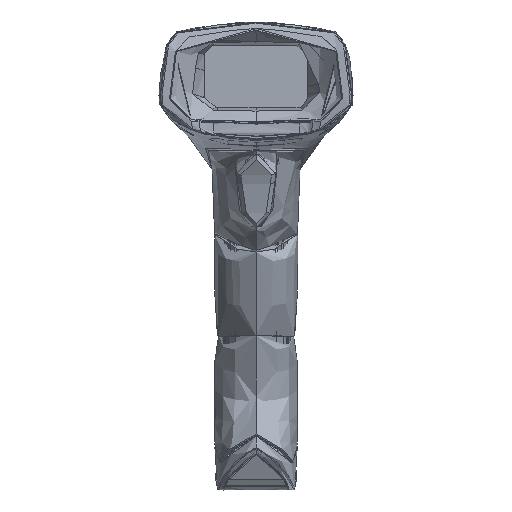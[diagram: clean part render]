
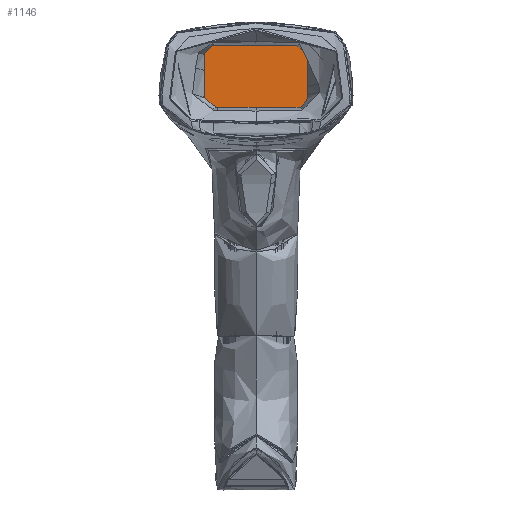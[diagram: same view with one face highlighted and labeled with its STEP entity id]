
A CAD part, front view. The second image highlights one B-rep face of the part: STEP entity #1146.
In plain terms, the highlighted planar face has unit normal (0, -1, 0).
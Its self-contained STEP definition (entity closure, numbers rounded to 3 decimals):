
#1146=ADVANCED_FACE('',(#5742),#78054,.T.);
#5742=FACE_OUTER_BOUND('',#10401,.T.);
#10401=EDGE_LOOP('',(#20009,#20010,#20011,#20012,#20013,#20014,#20015,#20016));
#20009=ORIENTED_EDGE('',*,*,#43531,.F.);
#20010=ORIENTED_EDGE('',*,*,#43552,.T.);
#20011=ORIENTED_EDGE('',*,*,#43550,.F.);
#20012=ORIENTED_EDGE('',*,*,#43547,.F.);
#20013=ORIENTED_EDGE('',*,*,#43544,.F.);
#20014=ORIENTED_EDGE('',*,*,#43541,.F.);
#20015=ORIENTED_EDGE('',*,*,#43538,.F.);
#20016=ORIENTED_EDGE('',*,*,#43535,.F.);
#43531=EDGE_CURVE('',#69405,#69404,#54065,.T.);
#43535=EDGE_CURVE('',#69404,#69406,#57469,.T.);
#43538=EDGE_CURVE('',#69406,#69407,#54067,.T.);
#43541=EDGE_CURVE('',#69407,#69408,#57473,.T.);
#43544=EDGE_CURVE('',#69408,#69409,#54069,.T.);
#43547=EDGE_CURVE('',#69409,#69410,#57477,.T.);
#43550=EDGE_CURVE('',#69410,#69411,#54071,.T.);
#43552=EDGE_CURVE('',#69405,#69411,#57480,.T.);
#54065=(
BOUNDED_CURVE()
B_SPLINE_CURVE(2,(#125551,#125552,#125553),.UNSPECIFIED.,.F.,.F.)
B_SPLINE_CURVE_WITH_KNOTS((3,3),(-3.77,0.),.UNSPECIFIED.)
CURVE()
GEOMETRIC_REPRESENTATION_ITEM()
RATIONAL_B_SPLINE_CURVE((1.,0.707,1.))
REPRESENTATION_ITEM('')
);
#54067=(
BOUNDED_CURVE()
B_SPLINE_CURVE(2,(#125567,#125568,#125569),.UNSPECIFIED.,.F.,.F.)
B_SPLINE_CURVE_WITH_KNOTS((3,3),(-3.77,0.),.UNSPECIFIED.)
CURVE()
GEOMETRIC_REPRESENTATION_ITEM()
RATIONAL_B_SPLINE_CURVE((1.,0.707,1.))
REPRESENTATION_ITEM('')
);
#54069=(
BOUNDED_CURVE()
B_SPLINE_CURVE(2,(#125581,#125582,#125583),.UNSPECIFIED.,.F.,.F.)
B_SPLINE_CURVE_WITH_KNOTS((3,3),(-3.77,0.),.UNSPECIFIED.)
CURVE()
GEOMETRIC_REPRESENTATION_ITEM()
RATIONAL_B_SPLINE_CURVE((1.,0.707,1.))
REPRESENTATION_ITEM('')
);
#54071=(
BOUNDED_CURVE()
B_SPLINE_CURVE(2,(#125595,#125596,#125597),.UNSPECIFIED.,.F.,.F.)
B_SPLINE_CURVE_WITH_KNOTS((3,3),(-3.77,0.),.UNSPECIFIED.)
CURVE()
GEOMETRIC_REPRESENTATION_ITEM()
RATIONAL_B_SPLINE_CURVE((1.,0.707,1.))
REPRESENTATION_ITEM('')
);
#57469=B_SPLINE_CURVE_WITH_KNOTS('',1,(#125560,#125561),.UNSPECIFIED.,.F.,
 .F.,(2,2),(-30.461,0.),.UNSPECIFIED.);
#57473=B_SPLINE_CURVE_WITH_KNOTS('',1,(#125574,#125575),.UNSPECIFIED.,.F.,
 .F.,(2,2),(-16.296,0.),.UNSPECIFIED.);
#57477=B_SPLINE_CURVE_WITH_KNOTS('',1,(#125588,#125589),.UNSPECIFIED.,.F.,
 .F.,(2,2),(-30.461,0.),.UNSPECIFIED.);
#57480=B_SPLINE_CURVE_WITH_KNOTS('',1,(#125600,#125601),.UNSPECIFIED.,.F.,
 .F.,(2,2),(0.,16.296),.UNSPECIFIED.);
#69404=VERTEX_POINT('',#125538);
#69405=VERTEX_POINT('',#125539);
#69406=VERTEX_POINT('',#125540);
#69407=VERTEX_POINT('',#125541);
#69408=VERTEX_POINT('',#125542);
#69409=VERTEX_POINT('',#125543);
#69410=VERTEX_POINT('',#125544);
#69411=VERTEX_POINT('',#125545);
#78054=PLANE('',#81619);
#81619=AXIS2_PLACEMENT_3D('',#125529,#84179,$);
#84179=DIRECTION('',(0.,-1.,0.));
#125529=CARTESIAN_POINT('',(-21.168,-42.604,154.47));
#125538=CARTESIAN_POINT('',(15.23,-42.604,131.251));
#125539=CARTESIAN_POINT('',(17.63,-42.604,133.651));
#125540=CARTESIAN_POINT('',(-15.23,-42.604,131.251));
#125541=CARTESIAN_POINT('',(-17.63,-42.604,133.651));
#125542=CARTESIAN_POINT('',(-17.63,-42.604,149.947));
#125543=CARTESIAN_POINT('',(-15.23,-42.604,152.347));
#125544=CARTESIAN_POINT('',(15.23,-42.604,152.347));
#125545=CARTESIAN_POINT('',(17.63,-42.604,149.947));
#125551=CARTESIAN_POINT('',(17.63,-42.604,133.651));
#125552=CARTESIAN_POINT('',(17.63,-42.604,131.251));
#125553=CARTESIAN_POINT('',(15.23,-42.604,131.251));
#125560=CARTESIAN_POINT('',(15.23,-42.604,131.251));
#125561=CARTESIAN_POINT('',(-15.23,-42.604,131.251));
#125567=CARTESIAN_POINT('',(-15.23,-42.604,131.251));
#125568=CARTESIAN_POINT('',(-17.63,-42.604,131.251));
#125569=CARTESIAN_POINT('',(-17.63,-42.604,133.651));
#125574=CARTESIAN_POINT('',(-17.63,-42.604,133.651));
#125575=CARTESIAN_POINT('',(-17.63,-42.604,149.947));
#125581=CARTESIAN_POINT('',(-17.63,-42.604,149.947));
#125582=CARTESIAN_POINT('',(-17.63,-42.604,152.347));
#125583=CARTESIAN_POINT('',(-15.23,-42.604,152.347));
#125588=CARTESIAN_POINT('',(-15.23,-42.604,152.347));
#125589=CARTESIAN_POINT('',(15.23,-42.604,152.347));
#125595=CARTESIAN_POINT('',(15.23,-42.604,152.347));
#125596=CARTESIAN_POINT('',(17.63,-42.604,152.347));
#125597=CARTESIAN_POINT('',(17.63,-42.604,149.947));
#125600=CARTESIAN_POINT('',(17.63,-42.604,133.651));
#125601=CARTESIAN_POINT('',(17.63,-42.604,149.947));
